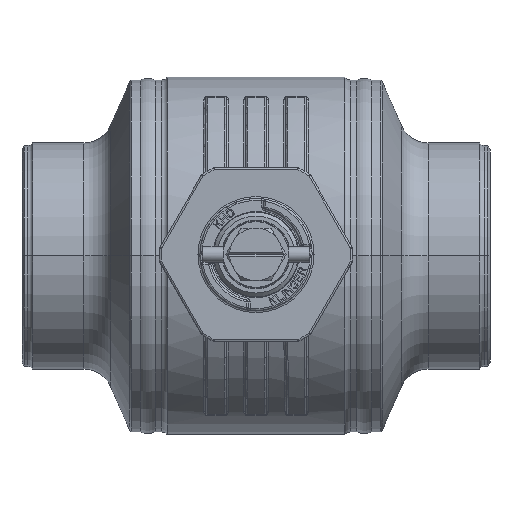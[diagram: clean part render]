
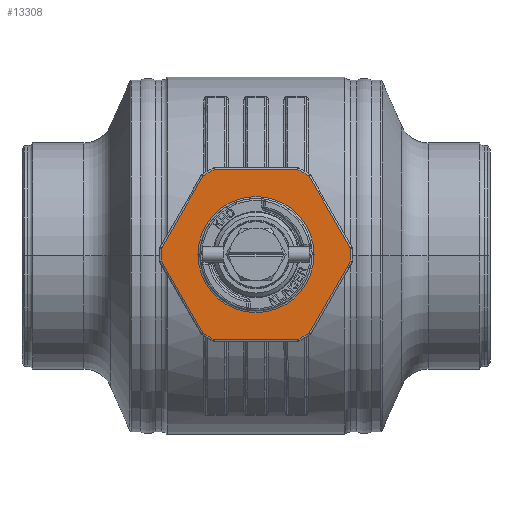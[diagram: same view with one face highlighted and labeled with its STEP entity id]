
A CAD part, top view. The second image highlights one B-rep face of the part: STEP entity #13308.
In plain terms, the highlighted planar face has unit normal (0, 0, 1).
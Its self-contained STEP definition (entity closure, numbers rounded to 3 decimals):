
#1510=CARTESIAN_POINT('',(0.,0.,421.));
#1511=DIRECTION('',(0.,0.,-1.));
#1512=DIRECTION('',(-0.558,0.83,0.));
#1513=AXIS2_PLACEMENT_3D('',#1510,#1511,#1512);
#1515=DIRECTION('',(-1.,0.,0.));
#1516=VECTOR('',#1515,43.128);
#1517=CARTESIAN_POINT('',(21.564,44.,421.));
#1518=LINE('',#1517,#1516);
#1519=CARTESIAN_POINT('',(0.,0.,421.));
#1520=DIRECTION('',(0.,0.,1.));
#1521=DIRECTION('',(0.558,0.83,0.));
#1522=AXIS2_PLACEMENT_3D('',#1519,#1520,#1521);
#1524=DIRECTION('',(-0.5,0.866,0.));
#1525=VECTOR('',#1524,43.128);
#1526=CARTESIAN_POINT('',(48.887,3.325,421.));
#1527=LINE('',#1526,#1525);
#1528=CARTESIAN_POINT('',(0.,0.,421.));
#1529=DIRECTION('',(0.,0.,1.));
#1530=DIRECTION('',(0.998,-0.068,0.));
#1531=AXIS2_PLACEMENT_3D('',#1528,#1529,#1530);
#1533=DIRECTION('',(0.5,0.866,0.));
#1534=VECTOR('',#1533,43.128);
#1535=CARTESIAN_POINT('',(27.323,-40.675,421.));
#1536=LINE('',#1535,#1534);
#1537=CARTESIAN_POINT('',(0.,0.,421.));
#1538=DIRECTION('',(0.,0.,1.));
#1539=DIRECTION('',(0.44,-0.898,0.));
#1540=AXIS2_PLACEMENT_3D('',#1537,#1538,#1539);
#1542=DIRECTION('',(1.,0.,0.));
#1543=VECTOR('',#1542,43.128);
#1544=CARTESIAN_POINT('',(-21.564,-44.,421.));
#1545=LINE('',#1544,#1543);
#1546=CARTESIAN_POINT('',(0.,0.,421.));
#1547=DIRECTION('',(0.,0.,1.));
#1548=DIRECTION('',(-0.558,-0.83,0.));
#1549=AXIS2_PLACEMENT_3D('',#1546,#1547,#1548);
#1551=DIRECTION('',(0.5,-0.866,0.));
#1552=VECTOR('',#1551,43.128);
#1553=CARTESIAN_POINT('',(-48.887,-3.325,421.));
#1554=LINE('',#1553,#1552);
#1555=CARTESIAN_POINT('',(0.,0.,421.));
#1556=DIRECTION('',(0.,0.,-1.));
#1557=DIRECTION('',(-0.998,-0.068,0.));
#1558=AXIS2_PLACEMENT_3D('',#1555,#1556,#1557);
#1560=DIRECTION('',(-0.5,-0.866,0.));
#1561=VECTOR('',#1560,43.128);
#1562=CARTESIAN_POINT('',(-27.323,40.675,421.));
#1563=LINE('',#1562,#1561);
#1564=CARTESIAN_POINT('',(0.,0.,421.));
#1565=DIRECTION('',(0.,0.,1.));
#1566=DIRECTION('',(1.,0.,0.));
#1567=AXIS2_PLACEMENT_3D('',#1564,#1565,#1566);
#1569=CARTESIAN_POINT('',(0.,0.,421.));
#1570=DIRECTION('',(0.,0.,1.));
#1571=DIRECTION('',(-1.,0.,0.));
#1572=AXIS2_PLACEMENT_3D('',#1569,#1570,#1571);
#10797=CARTESIAN_POINT('',(30.,0.,421.));
#10798=CARTESIAN_POINT('',(-30.,0.,421.));
#10799=VERTEX_POINT('',#10797);
#10800=VERTEX_POINT('',#10798);
#10979=CARTESIAN_POINT('',(-48.887,-3.325,421.));
#10980=CARTESIAN_POINT('',(-48.887,3.325,421.));
#10981=VERTEX_POINT('',#10979);
#10982=VERTEX_POINT('',#10980);
#11003=CARTESIAN_POINT('',(-27.323,40.675,421.));
#11004=VERTEX_POINT('',#11003);
#11005=CARTESIAN_POINT('',(-21.564,44.,421.));
#11006=VERTEX_POINT('',#11005);
#11024=CARTESIAN_POINT('',(-27.323,-40.675,421.));
#11026=VERTEX_POINT('',#11024);
#11029=CARTESIAN_POINT('',(-21.564,-44.,421.));
#11030=VERTEX_POINT('',#11029);
#11035=CARTESIAN_POINT('',(21.564,-44.,421.));
#11036=VERTEX_POINT('',#11035);
#11041=CARTESIAN_POINT('',(27.323,-40.675,421.));
#11042=VERTEX_POINT('',#11041);
#11047=CARTESIAN_POINT('',(48.887,-3.325,421.));
#11048=VERTEX_POINT('',#11047);
#11053=CARTESIAN_POINT('',(48.887,3.325,421.));
#11054=VERTEX_POINT('',#11053);
#11059=CARTESIAN_POINT('',(27.323,40.675,421.));
#11060=VERTEX_POINT('',#11059);
#11065=CARTESIAN_POINT('',(21.564,44.,421.));
#11066=VERTEX_POINT('',#11065);
#13272=CARTESIAN_POINT('',(0.,0.,421.));
#13273=DIRECTION('',(0.,0.,1.));
#13274=DIRECTION('',(1.,0.,0.));
#13275=AXIS2_PLACEMENT_3D('',#13272,#13273,#13274);
#13276=PLANE('',#13275);
#13278=ORIENTED_EDGE('',*,*,#13277,.T.);
#13280=ORIENTED_EDGE('',*,*,#13279,.F.);
#13282=ORIENTED_EDGE('',*,*,#13281,.F.);
#13284=ORIENTED_EDGE('',*,*,#13283,.F.);
#13286=ORIENTED_EDGE('',*,*,#13285,.F.);
#13288=ORIENTED_EDGE('',*,*,#13287,.F.);
#13290=ORIENTED_EDGE('',*,*,#13289,.F.);
#13292=ORIENTED_EDGE('',*,*,#13291,.F.);
#13294=ORIENTED_EDGE('',*,*,#13293,.F.);
#13296=ORIENTED_EDGE('',*,*,#13295,.F.);
#13298=ORIENTED_EDGE('',*,*,#13297,.T.);
#13300=ORIENTED_EDGE('',*,*,#13299,.F.);
#13301=EDGE_LOOP('',(#13278,#13280,#13282,#13284,#13286,#13288,#13290,#13292,
#13294,#13296,#13298,#13300));
#13302=FACE_OUTER_BOUND('',#13301,.F.);
#13304=ORIENTED_EDGE('',*,*,#13303,.T.);
#13305=ORIENTED_EDGE('',*,*,#13262,.T.);
#13306=EDGE_LOOP('',(#13304,#13305));
#13307=FACE_BOUND('',#13306,.F.);
#1514=CIRCLE('',#1513,49.);
#1523=CIRCLE('',#1522,49.);
#1532=CIRCLE('',#1531,49.);
#1541=CIRCLE('',#1540,49.);
#1550=CIRCLE('',#1549,49.);
#1559=CIRCLE('',#1558,49.);
#1568=CIRCLE('',#1567,30.);
#1573=CIRCLE('',#1572,30.);
#13262=EDGE_CURVE('',#10800,#10799,#1573,.T.);
#13277=EDGE_CURVE('',#11004,#11006,#1514,.T.);
#13279=EDGE_CURVE('',#11066,#11006,#1518,.T.);
#13281=EDGE_CURVE('',#11060,#11066,#1523,.T.);
#13283=EDGE_CURVE('',#11054,#11060,#1527,.T.);
#13285=EDGE_CURVE('',#11048,#11054,#1532,.T.);
#13287=EDGE_CURVE('',#11042,#11048,#1536,.T.);
#13289=EDGE_CURVE('',#11036,#11042,#1541,.T.);
#13291=EDGE_CURVE('',#11030,#11036,#1545,.T.);
#13293=EDGE_CURVE('',#11026,#11030,#1550,.T.);
#13295=EDGE_CURVE('',#10981,#11026,#1554,.T.);
#13297=EDGE_CURVE('',#10981,#10982,#1559,.T.);
#13299=EDGE_CURVE('',#11004,#10982,#1563,.T.);
#13303=EDGE_CURVE('',#10799,#10800,#1568,.T.);
#13308=ADVANCED_FACE('',(#13302,#13307),#13276,.T.);
